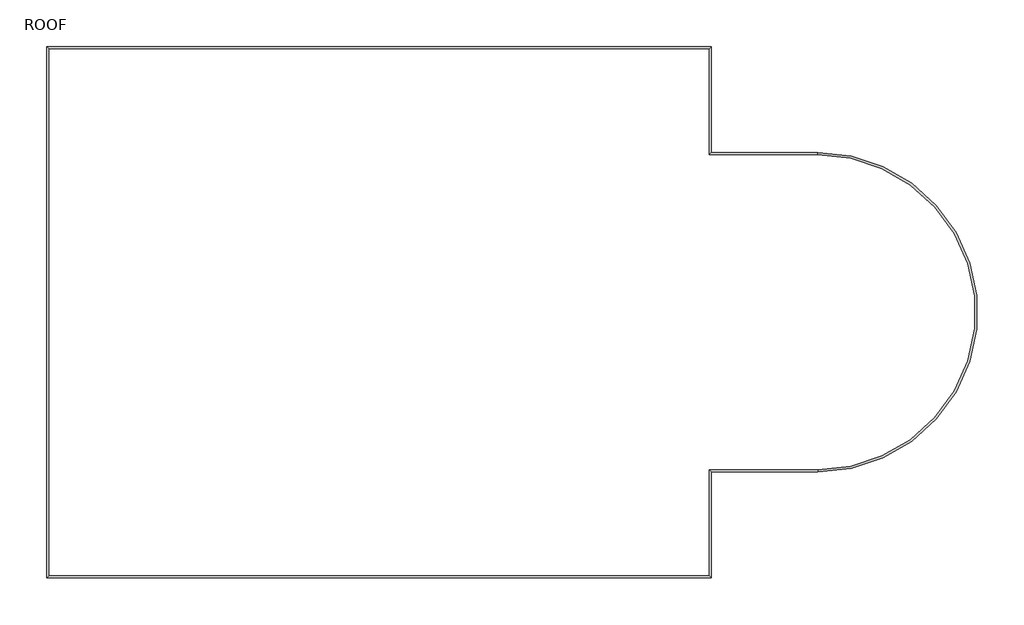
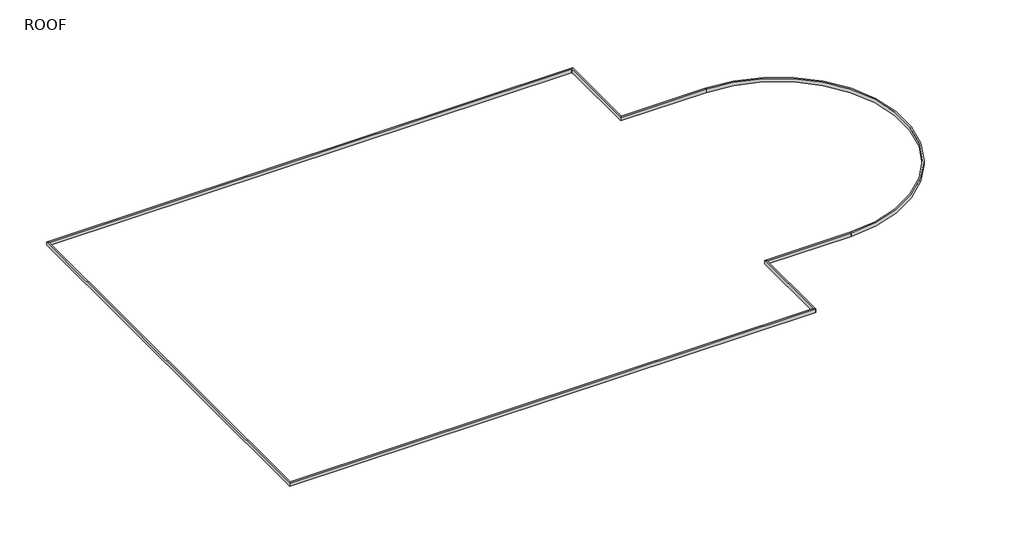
# One storey, incomplete: 8 proxies.
"""IFC4 building model written with IfcOpenShell, lengths in millimetres."""

from ifc_helpers import new_model, si_unit, point, frame, frame_2d, origin, place, context, project, spatial, polyline, circle_curve, trimmed, segment, composite_curve, outline, extrude, faceted_brep, element, save

model = new_model("IFC4")

# Units and contexts
model_context = context("Model", 3, world=origin())
ifc_project = project(units=[si_unit("LENGTHUNIT", "METRE", prefix="MILLI")], contexts=[model_context])

# Site, building, storey
site = spatial("IfcSite", under=ifc_project)
building = spatial("IfcBuilding", under=site)
storey = spatial("IfcBuildingStorey", under=building, Name="ROOF", Elevation=18288.0)

# Proxies
placement = place(None, origin())
element("IfcBuildingElementProxy", 1, Name="Wall Sweeps", at=placement, inside=storey, context=model_context, shape_type="SweptSolid", body=[
    extrude(outline(polyline([(12969.0589721, -14605.7351681), (13061.1339721, -14697.8101681), (-17418.8660279, -14697.8101681), (-17326.7910279, -14605.7351681), (12969.0589721, -14605.7351681)])), frame((0.0, 0.0, 19100.8), z_axis=(0.0, 0.0, 1.0), x_axis=(1.0, 0.0, 0.0)), (0.0, 0.0, 1.0), 203.2),
])
element("IfcBuildingElementProxy", 2, Name="Wall Sweeps", at=placement, inside=storey, context=model_context, shape_type="Brep", body=[
    faceted_brep([(-17418.8660279, -14697.8101681, 19304.0), (-17418.8660279, -14697.8101681, 19100.8), (-17326.7910279, -14605.7351681, 19100.8), (-17326.7910279, -14605.7351681, 19304.0), (-17418.8660279, 9686.1898319, 19304.0), (-17326.7910279, 9594.1148319, 19304.0), (-17326.7910279, 9594.1148319, 19100.8), (-17418.8660279, 9686.1898319, 19100.8), (-17418.8660279, -14345.3851681, 19304.0), (-17418.8660279, -14345.3851681, 19100.8), (-17326.7910279, -14345.3851681, 19100.8), (-17326.7910279, -14345.3851681, 19304.0)], [[[0, 1, 2, 3]], [[4, 5, 6, 7]], [[1, 0, 8, 4, 7, 9]], [[2, 1, 9, 7, 6, 10]], [[3, 2, 10, 6, 5, 11]], [[0, 3, 11, 5, 4, 8]]]),
])
element("IfcBuildingElementProxy", 3, Name="Wall Sweeps", at=placement, inside=storey, context=model_context, shape_type="Brep", body=[
    faceted_brep([(-17418.8660279, 9686.1898319, 19304.0), (-17418.8660279, 9686.1898319, 19100.8), (-17326.7910279, 9594.1148319, 19100.8), (-17326.7910279, 9594.1148319, 19304.0), (13061.1339721, 9686.1898319, 19304.0), (12969.0589721, 9594.1148319, 19304.0), (12969.0589721, 9594.1148319, 19100.8), (13061.1339721, 9686.1898319, 19100.8), (-17066.4410279, 9686.1898319, 19304.0), (-17066.4410279, 9686.1898319, 19100.8), (-17066.4410279, 9594.1148319, 19100.8), (-17066.4410279, 9594.1148319, 19304.0)], [[[0, 1, 2, 3]], [[4, 5, 6, 7]], [[1, 0, 8, 4, 7, 9]], [[2, 1, 9, 7, 6, 10]], [[3, 2, 10, 6, 5, 11]], [[0, 3, 11, 5, 4, 8]]]),
])
element("IfcBuildingElementProxy", 4, Name="Wall Sweeps", at=placement, inside=storey, context=model_context, shape_type="Brep", body=[
    faceted_brep([(13061.1339721, 9686.1898319, 19304.0), (13061.1339721, 9686.1898319, 19100.8), (12969.0589721, 9594.1148319, 19100.8), (12969.0589721, 9594.1148319, 19304.0), (13061.1339721, 4809.3898319, 19304.0), (12969.0589721, 4717.3148319, 19304.0), (12969.0589721, 4717.3148319, 19100.8), (13061.1339721, 4809.3898319, 19100.8), (13061.1339721, 9333.7648319, 19304.0), (13061.1339721, 9333.7648319, 19100.8), (12969.0589721, 9333.7648319, 19100.8), (12969.0589721, 9333.7648319, 19304.0)], [[[0, 1, 2, 3]], [[4, 5, 6, 7]], [[1, 0, 8, 4, 7, 9]], [[2, 1, 9, 7, 6, 10]], [[3, 2, 10, 6, 5, 11]], [[0, 3, 11, 5, 4, 8]]]),
])
element("IfcBuildingElementProxy", 5, Name="Wall Sweeps", at=placement, inside=storey, context=model_context, shape_type="Brep", body=[
    faceted_brep([(13061.1339721, 4809.3898319, 19304.0), (13061.1339721, 4809.3898319, 19100.8), (12969.0589721, 4717.3148319, 19100.8), (12969.0589721, 4717.3148319, 19304.0), (17937.9339721, 4809.3898319, 19304.0), (17937.9339721, 4717.3148319, 19304.0), (17937.9339721, 4717.3148319, 19100.8), (17937.9339721, 4809.3898319, 19100.8), (13061.1339721, 4717.3148319, 19100.8), (13061.1339721, 4717.3148319, 19304.0)], [[[0, 1, 2, 3]], [[4, 5, 6, 7]], [[1, 0, 4, 7]], [[2, 1, 7, 6, 8]], [[3, 2, 8, 6, 5, 9]], [[0, 3, 9, 5, 4]]]),
])
element("IfcBuildingElementProxy", 6, Name="Wall Sweeps", at=placement, inside=storey, context=model_context, shape_type="Brep", body=[
    faceted_brep([(13061.1339721, -14697.8101681, 19304.0), (12969.0589721, -14605.7351681, 19304.0), (12969.0589721, -14605.7351681, 19100.8), (13061.1339721, -14697.8101681, 19100.8), (13061.1339721, -9821.0101681, 19304.0), (13061.1339721, -9821.0101681, 19100.8), (12969.0589721, -9728.9351681, 19100.8), (12969.0589721, -9728.9351681, 19304.0), (13061.1339721, -14345.3851681, 19100.8), (13061.1339721, -14345.3851681, 19304.0), (12969.0589721, -14345.3851681, 19100.8), (12969.0589721, -14345.3851681, 19304.0)], [[[0, 1, 2, 3]], [[4, 5, 6, 7]], [[0, 3, 8, 5, 4, 9]], [[3, 2, 10, 6, 5, 8]], [[2, 1, 11, 7, 6, 10]], [[1, 0, 9, 4, 7, 11]]]),
])
element("IfcBuildingElementProxy", 7, Name="Wall Sweeps", at=placement, inside=storey, context=model_context, shape_type="Brep", body=[
    faceted_brep([(13061.1339721, -9821.0101681, 19304.0), (12969.0589721, -9728.9351681, 19304.0), (12969.0589721, -9728.9351681, 19100.8), (13061.1339721, -9821.0101681, 19100.8), (17937.9339721, -9821.0101681, 19304.0), (17937.9339721, -9821.0101681, 19100.8), (17937.9339721, -9728.9351681, 19100.8), (17937.9339721, -9728.9351681, 19304.0), (13061.1339721, -9728.9351681, 19100.8), (13061.1339721, -9728.9351681, 19304.0)], [[[0, 1, 2, 3]], [[4, 5, 6, 7]], [[0, 3, 5, 4]], [[3, 2, 8, 6, 5]], [[2, 1, 9, 7, 6, 8]], [[1, 0, 4, 7, 9]]]),
])
element("IfcBuildingElementProxy", 8, Name="Wall Sweeps", at=placement, inside=storey, context=model_context, shape_type="SweptSolid", body=[
    extrude(outline(composite_curve([segment(trimmed(circle_curve(frame_2d((17937.9339721, -2505.8101681)), 7223.125), [point((17937.9339721, -9728.9351681))], [point((17937.9339721, 4717.3148319))], True, "CARTESIAN"), True, "CONTINUOUS"), segment(polyline([(17937.9339721, 4717.3148319), (17937.9339721, 4809.3898319)]), True, "CONTINUOUS"), segment(trimmed(circle_curve(frame_2d((17937.9339721, -2505.8101681)), 7315.2), [point((17937.9339721, 4809.3898319))], [point((17937.9339721, -9821.0101681))], False, "CARTESIAN"), True, "CONTINUOUS"), segment(polyline([(17937.9339721, -9821.0101681), (17937.9339721, -9728.9351681)]), True, "CONTINUOUS")], self_intersect=False)), frame((0.0, 0.0, 19100.8), z_axis=(0.0, 0.0, 1.0), x_axis=(1.0, 0.0, 0.0)), (0.0, 0.0, 1.0), 203.2),
])

save(model, "model.ifc")
